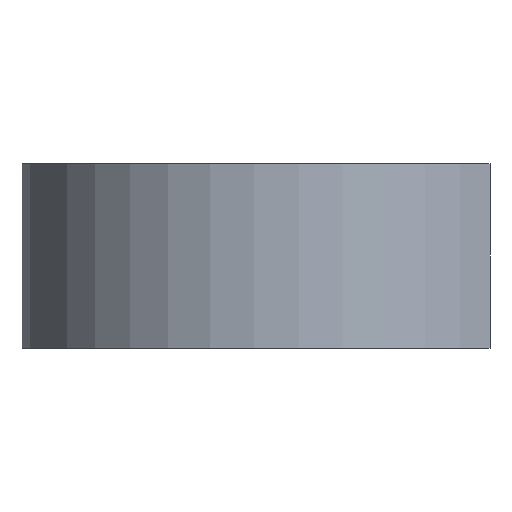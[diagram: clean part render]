
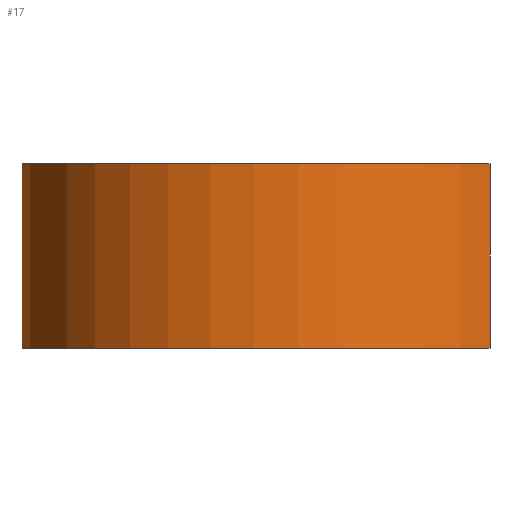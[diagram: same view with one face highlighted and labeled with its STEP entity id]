
A CAD part, left-side view. The second image highlights one B-rep face of the part: STEP entity #17.
In plain terms, the highlighted cylindrical face has radius 65 mm (diameter 130 mm), a partial arc.
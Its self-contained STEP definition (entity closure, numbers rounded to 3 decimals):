
#17 = ADVANCED_FACE('',(#18),#33,.T.);
#18 = FACE_BOUND('',#19,.F.);
#19 = EDGE_LOOP('',(#20,#56,#82,#115));
#20 = ORIENTED_EDGE('',*,*,#21,.F.);
#21 = EDGE_CURVE('',#22,#24,#26,.T.);
#22 = VERTEX_POINT('',#23);
#23 = CARTESIAN_POINT('',(39.,-52.,0.));
#24 = VERTEX_POINT('',#25);
#25 = CARTESIAN_POINT('',(-39.,-52.,0.));
#26 = SURFACE_CURVE('',#27,(#32,#44),.PCURVE_S1.);
#27 = CIRCLE('',#28,65.);
#28 = AXIS2_PLACEMENT_3D('',#29,#30,#31);
#29 = CARTESIAN_POINT('',(0.,0.,0.));
#30 = DIRECTION('',(0.,0.,1.));
#31 = DIRECTION('',(0.6,-0.8,0.));
#32 = PCURVE('',#33,#38);
#33 = CYLINDRICAL_SURFACE('',#34,65.);
#34 = AXIS2_PLACEMENT_3D('',#35,#36,#37);
#35 = CARTESIAN_POINT('',(0.,0.,0.));
#36 = DIRECTION('',(-0.,-0.,-1.));
#37 = DIRECTION('',(1.,0.,0.));
#38 = DEFINITIONAL_REPRESENTATION('',(#39),#43);
#39 = LINE('',#40,#41);
#40 = CARTESIAN_POINT('',(-5.356,0.));
#41 = VECTOR('',#42,1.);
#42 = DIRECTION('',(-1.,0.));
#43 = ( GEOMETRIC_REPRESENTATION_CONTEXT(2) 
PARAMETRIC_REPRESENTATION_CONTEXT() REPRESENTATION_CONTEXT('2D SPACE',''
  ) );
#44 = PCURVE('',#45,#50);
#45 = PLANE('',#46);
#46 = AXIS2_PLACEMENT_3D('',#47,#48,#49);
#47 = CARTESIAN_POINT('',(0.,0.,0.));
#48 = DIRECTION('',(0.,0.,1.));
#49 = DIRECTION('',(1.,0.,-0.));
#50 = DEFINITIONAL_REPRESENTATION('',(#51),#55);
#51 = CIRCLE('',#52,65.);
#52 = AXIS2_PLACEMENT_2D('',#53,#54);
#53 = CARTESIAN_POINT('',(0.,0.));
#54 = DIRECTION('',(0.6,-0.8));
#55 = ( GEOMETRIC_REPRESENTATION_CONTEXT(2) 
PARAMETRIC_REPRESENTATION_CONTEXT() REPRESENTATION_CONTEXT('2D SPACE',''
  ) );
#56 = ORIENTED_EDGE('',*,*,#57,.F.);
#57 = EDGE_CURVE('',#58,#22,#60,.T.);
#58 = VERTEX_POINT('',#59);
#59 = CARTESIAN_POINT('',(39.,-52.,46.));
#60 = SURFACE_CURVE('',#61,(#65,#71),.PCURVE_S1.);
#61 = LINE('',#62,#63);
#62 = CARTESIAN_POINT('',(39.,-52.,0.));
#63 = VECTOR('',#64,1.);
#64 = DIRECTION('',(-0.,-0.,-1.));
#65 = PCURVE('',#33,#66);
#66 = DEFINITIONAL_REPRESENTATION('',(#67),#70);
#67 = B_SPLINE_CURVE_WITH_KNOTS('',1,(#68,#69),.UNSPECIFIED.,.F.,.F.,(2,
    2),(-46.,0.),.PIECEWISE_BEZIER_KNOTS.);
#68 = CARTESIAN_POINT('',(-5.356,-46.));
#69 = CARTESIAN_POINT('',(-5.356,0.));
#70 = ( GEOMETRIC_REPRESENTATION_CONTEXT(2) 
PARAMETRIC_REPRESENTATION_CONTEXT() REPRESENTATION_CONTEXT('2D SPACE',''
  ) );
#71 = PCURVE('',#72,#77);
#72 = PLANE('',#73);
#73 = AXIS2_PLACEMENT_3D('',#74,#75,#76);
#74 = CARTESIAN_POINT('',(-200.,-52.,-280.));
#75 = DIRECTION('',(0.,1.,0.));
#76 = DIRECTION('',(0.,0.,1.));
#77 = DEFINITIONAL_REPRESENTATION('',(#78),#81);
#78 = B_SPLINE_CURVE_WITH_KNOTS('',1,(#79,#80),.UNSPECIFIED.,.F.,.F.,(2,
    2),(-46.,0.),.PIECEWISE_BEZIER_KNOTS.);
#79 = CARTESIAN_POINT('',(326.,239.));
#80 = CARTESIAN_POINT('',(280.,239.));
#81 = ( GEOMETRIC_REPRESENTATION_CONTEXT(2) 
PARAMETRIC_REPRESENTATION_CONTEXT() REPRESENTATION_CONTEXT('2D SPACE',''
  ) );
#82 = ORIENTED_EDGE('',*,*,#83,.F.);
#83 = EDGE_CURVE('',#84,#58,#86,.T.);
#84 = VERTEX_POINT('',#85);
#85 = CARTESIAN_POINT('',(-39.,-52.,46.));
#86 = SURFACE_CURVE('',#87,(#92,#99),.PCURVE_S1.);
#87 = CIRCLE('',#88,65.);
#88 = AXIS2_PLACEMENT_3D('',#89,#90,#91);
#89 = CARTESIAN_POINT('',(0.,0.,46.));
#90 = DIRECTION('',(-0.,0.,-1.));
#91 = DIRECTION('',(-0.6,-0.8,0.));
#92 = PCURVE('',#33,#93);
#93 = DEFINITIONAL_REPRESENTATION('',(#94),#98);
#94 = LINE('',#95,#96);
#95 = CARTESIAN_POINT('',(-10.352,-46.));
#96 = VECTOR('',#97,1.);
#97 = DIRECTION('',(1.,-0.));
#98 = ( GEOMETRIC_REPRESENTATION_CONTEXT(2) 
PARAMETRIC_REPRESENTATION_CONTEXT() REPRESENTATION_CONTEXT('2D SPACE',''
  ) );
#99 = PCURVE('',#100,#105);
#100 = PLANE('',#101);
#101 = AXIS2_PLACEMENT_3D('',#102,#103,#104);
#102 = CARTESIAN_POINT('',(0.,0.,46.));
#103 = DIRECTION('',(0.,0.,1.));
#104 = DIRECTION('',(1.,0.,-0.));
#105 = DEFINITIONAL_REPRESENTATION('',(#106),#114);
#106 = ( BOUNDED_CURVE() B_SPLINE_CURVE(2,(#107,#108,#109,#110,#111,#112
,#113),.UNSPECIFIED.,.T.,.F.) B_SPLINE_CURVE_WITH_KNOTS((1,2,2,2,2,1),(
    -2.094,0.,2.094,4.189,6.283,
8.378),.UNSPECIFIED.) CURVE() GEOMETRIC_REPRESENTATION_ITEM() 
RATIONAL_B_SPLINE_CURVE((1.,0.5,1.,0.5,1.,0.5,1.)) REPRESENTATION_ITEM(
  '') );
#107 = CARTESIAN_POINT('',(-39.,-52.));
#108 = CARTESIAN_POINT('',(-129.067,15.55));
#109 = CARTESIAN_POINT('',(-25.533,59.775));
#110 = CARTESIAN_POINT('',(78.,104.));
#111 = CARTESIAN_POINT('',(64.533,-7.775));
#112 = CARTESIAN_POINT('',(51.067,-119.55));
#113 = CARTESIAN_POINT('',(-39.,-52.));
#114 = ( GEOMETRIC_REPRESENTATION_CONTEXT(2) 
PARAMETRIC_REPRESENTATION_CONTEXT() REPRESENTATION_CONTEXT('2D SPACE',''
  ) );
#115 = ORIENTED_EDGE('',*,*,#116,.T.);
#116 = EDGE_CURVE('',#84,#24,#117,.T.);
#117 = SURFACE_CURVE('',#118,(#122,#128),.PCURVE_S1.);
#118 = LINE('',#119,#120);
#119 = CARTESIAN_POINT('',(-39.,-52.,0.));
#120 = VECTOR('',#121,1.);
#121 = DIRECTION('',(-0.,-0.,-1.));
#122 = PCURVE('',#33,#123);
#123 = DEFINITIONAL_REPRESENTATION('',(#124),#127);
#124 = B_SPLINE_CURVE_WITH_KNOTS('',1,(#125,#126),.UNSPECIFIED.,.F.,.F.,
  (2,2),(-46.,0.),.PIECEWISE_BEZIER_KNOTS.);
#125 = CARTESIAN_POINT('',(-10.352,-46.));
#126 = CARTESIAN_POINT('',(-10.352,0.));
#127 = ( GEOMETRIC_REPRESENTATION_CONTEXT(2) 
PARAMETRIC_REPRESENTATION_CONTEXT() REPRESENTATION_CONTEXT('2D SPACE',''
  ) );
#128 = PCURVE('',#72,#129);
#129 = DEFINITIONAL_REPRESENTATION('',(#130),#133);
#130 = B_SPLINE_CURVE_WITH_KNOTS('',1,(#131,#132),.UNSPECIFIED.,.F.,.F.,
  (2,2),(-46.,0.),.PIECEWISE_BEZIER_KNOTS.);
#131 = CARTESIAN_POINT('',(326.,161.));
#132 = CARTESIAN_POINT('',(280.,161.));
#133 = ( GEOMETRIC_REPRESENTATION_CONTEXT(2) 
PARAMETRIC_REPRESENTATION_CONTEXT() REPRESENTATION_CONTEXT('2D SPACE',''
  ) );
